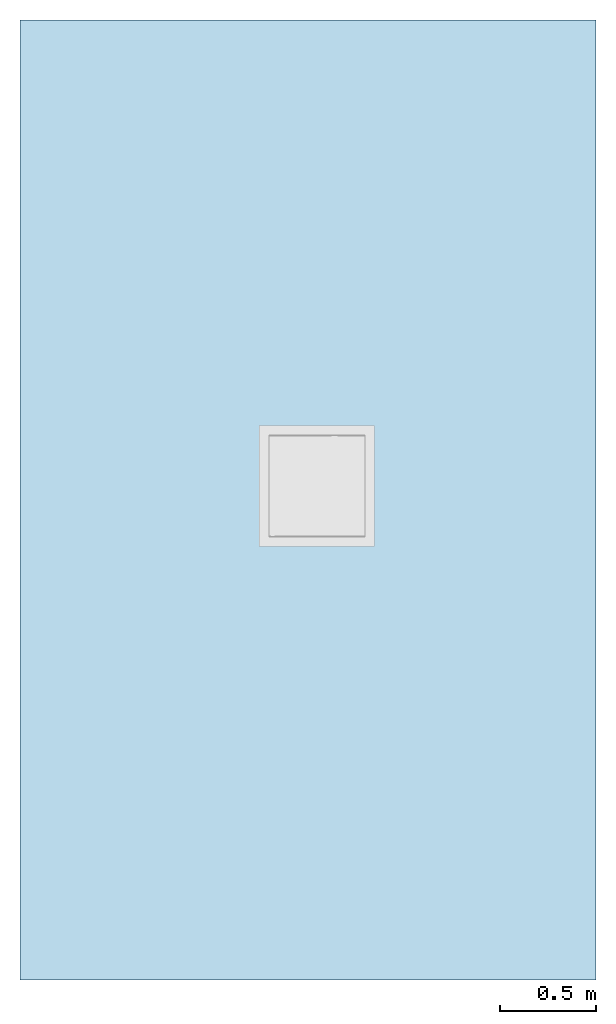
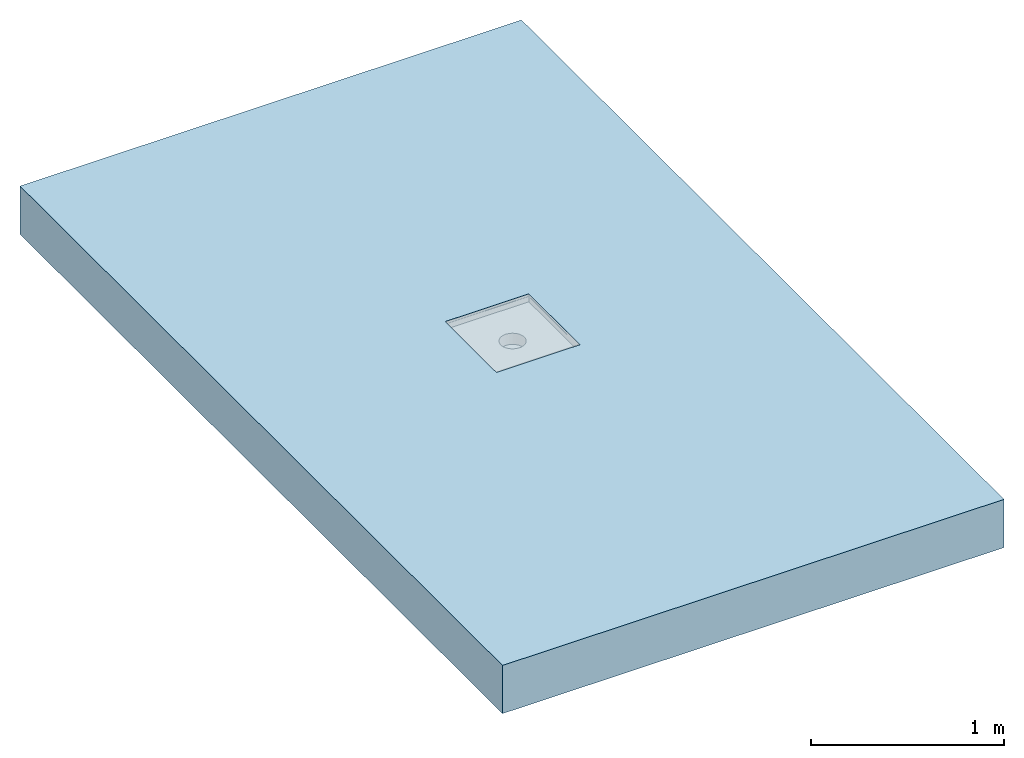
# One storey, incomplete: 1 slab, 1 opening.
"""IFC2X3 building model written with IfcOpenShell, lengths in millimetres."""

from ifc_helpers import new_model, entity, si_unit, converted_unit, derived_unit, direction, frame, frame_2d, origin, place, context, subcontext, project, spatial, rectangle, extrude, faceted_brep, material, layer, layer_set, layer_usage, element, save


model = new_model("IFC2X3")

# Units and contexts
model_context = context("Model", 3, precision=1e-05, world=origin(), true_north=direction((2.0, 6.12303176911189e-17, 1.0)))
context_of_model = context(None, 3, precision=1e-05, world=origin(), true_north=direction((2.0, 6.12303176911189e-17, 1.0)))
body_context = subcontext(model_context, "Body", "Model", "MODEL_VIEW")
ifc_project = project(units=[si_unit("LENGTHUNIT", "METRE", prefix="MILLI"), converted_unit("AREAUNIT", "SQUARE FOOT", entity("IfcRatioMeasure", 0.09290304), si_unit("AREAUNIT", "SQUARE_METRE"), dimensions=[2, 0, 0, 0, 0, 0, 0]), converted_unit("VOLUMEUNIT", "CUBIC FOOT", entity("IfcRatioMeasure", 0.028316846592), si_unit("VOLUMEUNIT", "CUBIC_METRE"), dimensions=[3, 0, 0, 0, 0, 0, 0]), converted_unit("PLANEANGLEUNIT", "DEGREE", entity("IfcRatioMeasure", 0.0174532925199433), si_unit("PLANEANGLEUNIT", "RADIAN"), dimensions=[0, 0, 0, 0, 0, 0, 0]), si_unit("MASSUNIT", "GRAM", prefix="KILO"), si_unit("TIMEUNIT", "SECOND"), si_unit("THERMODYNAMICTEMPERATUREUNIT", "KELVIN"), derived_unit("THERMALTRANSMITTANCEUNIT", [(si_unit("MASSUNIT", "GRAM", prefix="KILO"), 1), (si_unit("THERMODYNAMICTEMPERATUREUNIT", "KELVIN"), -1), (si_unit("TIMEUNIT", "SECOND"), -3)]), derived_unit("VOLUMETRICFLOWRATEUNIT", [(si_unit("LENGTHUNIT", "METRE"), 3), (si_unit("TIMEUNIT", "SECOND"), -1)]), si_unit("POWERUNIT", "WATT")], contexts=[model_context, context_of_model])

# Site, building, storey
site_placement = place(None, origin())
site = spatial("IfcSite", under=ifc_project, at=site_placement, Name="Default", CompositionType="ELEMENT")
building_placement = place(site_placement, origin())
building = spatial("IfcBuilding", under=site, at=building_placement, CompositionType="ELEMENT")
storey_placement = place(building_placement, origin())
storey = spatial("IfcBuildingStorey", under=building, at=storey_placement, Name="Level 1", CompositionType="ELEMENT", Elevation=0.0)

# Slab, opening
ifc_material = material(Name="Default Floor")
ifc_layer = layer(ifc_material, 304.8)
ifc_layer_set = layer_set([ifc_layer], Name="Floor:Generic - 12\"")
ifc_layer_usage = layer_usage(ifc_layer_set, "AXIS3", "POSITIVE", 0.0)
slab_placement = place(storey_placement, frame((-2592.42688678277, 381.838531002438, -304.8)))
slab = element("IfcSlab", 1, at=slab_placement, inside=storey, material=ifc_layer_usage, Name="Floor:Generic - 12\"", ObjectType="Floor:Generic - 12\"", PredefinedType="FLOOR", context=body_context, shape_type="SweptSolid", body=[
    extrude(rectangle(XDim=5000.0, YDim=3000.0, at=frame_2d((0.0, 0.0), x_axis=(0.0, -1.0))), frame((1500.0, 2500.0, 304.8), z_axis=(0.0, 0.0, -1.0), x_axis=(-1.0, 0.0, 0.0)), (0.0, 0.0, 1.0), 304.8),
])
opening_placement = place(slab_placement, frame((1246.02682035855, 2258.48521053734, 184.151793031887)))
element("IfcOpeningElement", 2, at=opening_placement, cuts=slab, ObjectType="Recess", context=body_context, shape_type="Brep", body=[
    faceted_brep([(50.0, 50.0, 70.6482069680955), (50.0, 50.0, 104.148206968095), (50.0, 580.0, 104.148206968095), (50.0, 580.0, 70.6482069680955), (549.667309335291, 50.0, 70.6482069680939), (549.667309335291, 50.0, 104.148206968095), (50.0, 580.0, 105.648206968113), (50.0, 580.0, 120.648206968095), (549.667309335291, 580.0, 120.648206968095), (549.667309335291, 580.0, 105.648206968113), (549.667309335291, 50.0, 105.648206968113), (549.667309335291, 50.0, 120.648206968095), (50.0, 50.0, 120.648206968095), (50.0, 50.0, 105.648206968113), (549.667309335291, 580.0, 104.148206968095), (549.667309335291, 580.0, 70.6482069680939), (264.333654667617, 253.512196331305, 70.6482069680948), (281.457502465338, 246.419266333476, 70.6482069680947), (249.629073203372, 264.795418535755, 70.6482069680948), (299.833654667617, 244.0, 70.6482069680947), (228.833654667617, 315.0, 70.6482069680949), (231.252921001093, 296.623847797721, 70.6482069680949), (238.345850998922, 279.5, 70.6482069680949), (318.209806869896, 246.419266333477, 70.6482069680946), (335.333654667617, 253.512196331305, 70.6482069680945), (350.038236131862, 264.795418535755, 70.6482069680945), (361.321458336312, 279.5, 70.6482069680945), (368.414388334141, 296.623847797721, 70.6482069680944), (370.833654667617, 315.0, 70.6482069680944), (238.345850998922, 350.500000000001, 70.6482069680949), (231.252921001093, 333.37615220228, 70.6482069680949), (249.629073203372, 365.204581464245, 70.6482069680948), (264.333654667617, 376.487803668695, 70.6482069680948), (281.457502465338, 383.580733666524, 70.6482069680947), (299.833654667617, 386.0, 70.6482069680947), (368.414388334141, 333.376152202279, 70.6482069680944), (361.321458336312, 350.5, 70.6482069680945), (335.333654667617, 376.487803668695, 70.6482069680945), (318.209806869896, 383.580733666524, 70.6482069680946), (350.038236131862, 365.204581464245, 70.6482069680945), (299.833654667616, 244.0, 0.0), (281.457502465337, 246.419266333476, 0.0), (264.333654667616, 253.512196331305, 0.0), (299.833654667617, 386.0, 0.0), (249.629073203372, 264.795418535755, 0.0), (238.345850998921, 279.5, 0.0), (231.252921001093, 296.623847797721, 0.0), (318.209806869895, 246.419266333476, 0.0), (249.629073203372, 365.204581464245, 0.0), (335.333654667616, 253.512196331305, 0.0), (335.333654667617, 376.487803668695, 0.0), (350.038236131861, 264.795418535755, 0.0), (361.321458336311, 279.5, 0.0), (368.41438833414, 296.623847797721, 0.0), (368.41438833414, 333.376152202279, 0.0), (370.833654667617, 315.0, 0.0), (238.345850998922, 350.5, 0.0), (231.252921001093, 333.376152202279, 0.0), (264.333654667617, 376.487803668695, 0.0), (281.457502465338, 383.580733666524, 0.0), (361.321458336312, 350.5, 0.0), (350.038236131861, 365.204581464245, 0.0), (318.209806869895, 383.580733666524, 0.0), (228.833654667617, 315.0, 0.0), (0.0, 0.0, 104.148206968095), (599.667309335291, 0.0, 104.148206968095), (0.0, 630.0, 104.148206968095), (599.667309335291, 630.0, 104.148206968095), (0.0, 630.0, 105.648206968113), (599.667309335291, 630.0, 105.648206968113), (0.0, 0.0, 105.648206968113), (599.667309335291, 0.0, 105.648206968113)], [[[0, 1, 2]], [[2, 3, 0]], [[4, 5, 0]], [[1, 0, 5]], [[6, 7, 8]], [[8, 9, 6]], [[10, 11, 12]], [[12, 13, 10]], [[3, 2, 14]], [[14, 15, 3]], [[13, 12, 7]], [[7, 6, 13]], [[5, 4, 15]], [[15, 14, 5]], [[11, 10, 9]], [[9, 8, 11]], [[12, 11, 8]], [[8, 7, 12]], [[0, 16, 17]], [[16, 0, 18]], [[0, 17, 19]], [[20, 21, 0]], [[22, 18, 0]], [[21, 22, 0]], [[0, 3, 20]], [[4, 19, 23]], [[19, 4, 0]], [[4, 23, 24]], [[24, 25, 4]], [[26, 27, 4]], [[25, 26, 4]], [[4, 27, 28]], [[29, 30, 3]], [[31, 29, 3]], [[32, 3, 33]], [[3, 32, 31]], [[34, 33, 3]], [[3, 15, 34]], [[30, 20, 3]], [[35, 36, 15]], [[28, 35, 15]], [[37, 38, 15]], [[39, 15, 36]], [[15, 39, 37]], [[38, 34, 15]], [[28, 15, 4]], [[40, 41, 42]], [[43, 40, 42]], [[44, 45, 46]], [[47, 40, 43]], [[48, 42, 44]], [[49, 50, 51]], [[52, 51, 50]], [[53, 54, 55]], [[49, 47, 50]], [[53, 52, 54]], [[56, 44, 46]], [[57, 56, 46]], [[44, 56, 48]], [[43, 48, 58]], [[48, 43, 42]], [[58, 59, 43]], [[60, 50, 61]], [[60, 54, 52]], [[50, 43, 62]], [[60, 52, 50]], [[43, 50, 47]], [[46, 63, 57]], [[36, 60, 61]], [[37, 50, 62]], [[61, 50, 39]], [[38, 62, 43]], [[28, 54, 35]], [[54, 28, 55]], [[35, 54, 36]], [[54, 60, 36]], [[61, 39, 36]], [[37, 39, 50]], [[62, 38, 37]], [[43, 34, 38]], [[33, 59, 58]], [[48, 32, 58]], [[29, 56, 57]], [[48, 56, 31]], [[30, 57, 63]], [[59, 33, 34]], [[58, 32, 33]], [[48, 31, 32]], [[56, 29, 31]], [[30, 29, 57]], [[63, 20, 30]], [[59, 34, 43]], [[46, 21, 63]], [[45, 22, 46]], [[41, 40, 17]], [[44, 18, 45]], [[46, 22, 21]], [[21, 20, 63]], [[16, 42, 17]], [[16, 18, 44]], [[42, 41, 17]], [[18, 22, 45]], [[44, 42, 16]], [[40, 19, 17]], [[23, 47, 49]], [[51, 24, 49]], [[26, 52, 53]], [[51, 52, 25]], [[27, 53, 55]], [[47, 23, 19]], [[49, 24, 23]], [[51, 25, 24]], [[52, 26, 25]], [[27, 26, 53]], [[55, 28, 27]], [[47, 19, 40]], [[64, 1, 5]], [[1, 64, 2]], [[65, 5, 14]], [[5, 65, 64]], [[2, 66, 14]], [[66, 2, 64]], [[14, 67, 65]], [[67, 14, 66]], [[68, 6, 9]], [[6, 68, 13]], [[69, 9, 10]], [[9, 69, 68]], [[13, 70, 10]], [[70, 13, 68]], [[10, 71, 69]], [[71, 10, 70]], [[70, 68, 64]], [[66, 64, 68]], [[71, 70, 64]], [[64, 65, 71]], [[69, 71, 67]], [[65, 67, 71]], [[68, 69, 67]], [[67, 66, 68]]]),
])

save(model, "model.ifc")
